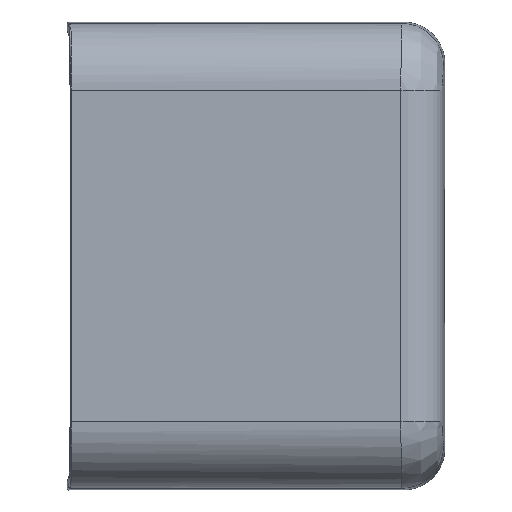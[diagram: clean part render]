
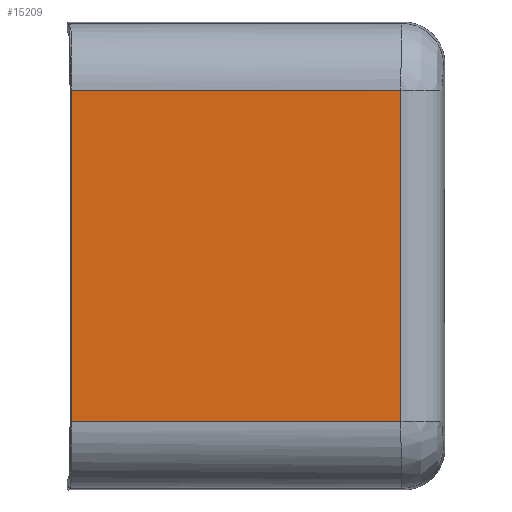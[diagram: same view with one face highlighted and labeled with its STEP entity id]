
A CAD part, top view. The second image highlights one B-rep face of the part: STEP entity #15209.
In plain terms, the highlighted planar face has unit normal (0, 0, 1).
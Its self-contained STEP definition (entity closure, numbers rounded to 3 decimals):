
#8066=CARTESIAN_POINT('',(-34.094,-25.219,
25.25));
#8114=DIRECTION('',(0.,-1.,0.));
#8115=VECTOR('',#8114,39.628);
#8116=CARTESIAN_POINT('',(-34.094,14.409,25.25));
#8117=LINE('',#8116,#8115);
#8121=DIRECTION('',(-1.,0.,0.));
#8122=VECTOR('',#8121,39.368);
#8123=CARTESIAN_POINT('',(5.274,14.409,25.25));
#8124=LINE('',#8123,#8122);
#8128=DIRECTION('',(0.,1.,0.));
#8129=VECTOR('',#8128,39.628);
#8130=CARTESIAN_POINT('',(5.274,-25.219,25.25));
#8131=LINE('',#8130,#8129);
#8135=DIRECTION('',(1.,0.,0.));
#8136=VECTOR('',#8135,39.368);
#8137=CARTESIAN_POINT('',(-34.094,-25.219,
25.25));
#8138=LINE('',#8137,#8136);
#8158=CARTESIAN_POINT('',(5.274,14.409,25.25));
#10665=VERTEX_POINT('',#8158);
#10667=CARTESIAN_POINT('',(5.274,-25.219,
25.25));
#10668=VERTEX_POINT('',#10667);
#10771=VERTEX_POINT('',#8066);
#10773=CARTESIAN_POINT('',(-34.094,14.409,
25.25));
#10774=VERTEX_POINT('',#10773);
#15196=CARTESIAN_POINT('',(-27.681,7.755,
25.25));
#15197=DIRECTION('',(0.,0.,-1.));
#15198=DIRECTION('',(0.,-1.,0.));
#15199=AXIS2_PLACEMENT_3D('',#15196,#15197,#15198);
#15200=PLANE('',#15199);
#15201=ORIENTED_EDGE('',*,*,#15187,.F.);
#15203=ORIENTED_EDGE('',*,*,#15202,.F.);
#15205=ORIENTED_EDGE('',*,*,#15204,.F.);
#15206=ORIENTED_EDGE('',*,*,#15109,.F.);
#15207=EDGE_LOOP('',(#15201,#15203,#15205,#15206));
#15208=FACE_OUTER_BOUND('',#15207,.F.);
#15209=ADVANCED_FACE('',(#15208),#15200,.F.);
#15109=EDGE_CURVE('',#10771,#10668,#8138,.T.);
#15187=EDGE_CURVE('',#10774,#10771,#8117,.T.);
#15202=EDGE_CURVE('',#10665,#10774,#8124,.T.);
#15204=EDGE_CURVE('',#10668,#10665,#8131,.T.);
